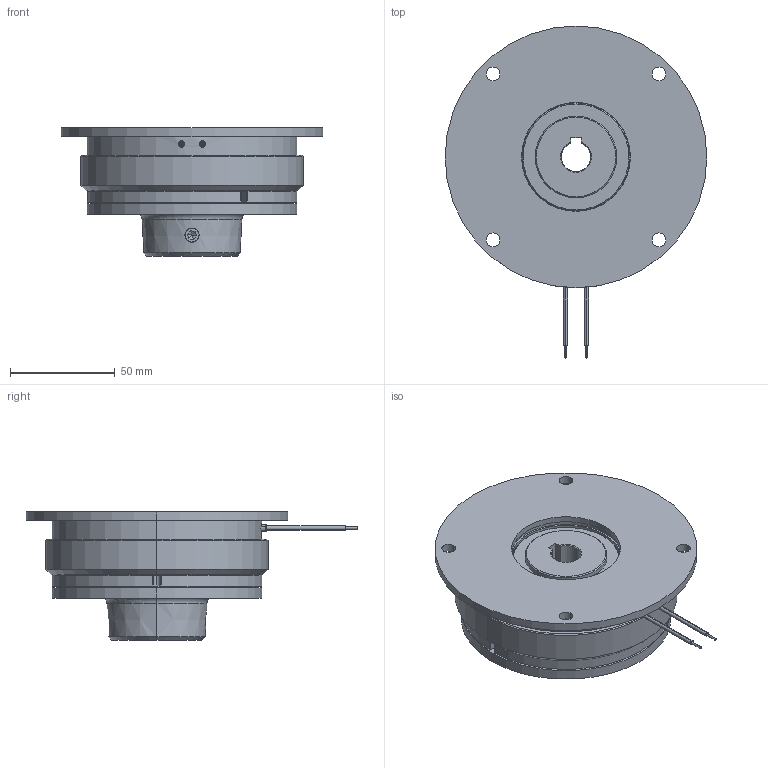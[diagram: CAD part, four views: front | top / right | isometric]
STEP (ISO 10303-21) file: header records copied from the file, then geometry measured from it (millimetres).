
FILE_DESCRIPTION (( 'STEP AP214' ), '1' );
FILE_NAME ('dr_bk_0803-130_mu.STEP', '2021-11-17T08:48:51', ( '' ), ( '' ), 'SwSTEP 2.0', 'SolidWorks 2019', '' );
FILE_SCHEMA (( 'AUTOMOTIVE_DESIGN' ));
Length unit declared in the file: millimetre
Products named in the file (11): 10068816_000; 10068817_000; 10068820_000; 10069131_000; 10068825_000; 10068819_000_Einbaul„nge 3,85; 10069116_000; 10068821_000; 10068824_000; 10069161_000_M 8 x 10; dr_bk_0803-130_mu
Assembly tree (20 placements, depth 4):
  dr_bk_0803-130_mu
    10069116_000
    10069131_000
    10068824_000
      10068825_000
      10068817_000
        10068816_000
        10068821_000
        10068820_000  x3
        10068819_000_Einbaul„nge 3,85  x3
      10068820_000  x3
      10068819_000_Einbaul„nge 3,85  x3
      10069161_000_M 8 x 10
Bounding box: 125 x 158.5 x 61.2 mm (x, y, z)
Volume: 344640.8 mm3; surface area: 108949.6 mm2
Topology: 20 solids, 20 shells, 676 faces, 1704 edges, 1083 vertices
Faces by surface type: cylinder 197, plane 181, bspline 135, cone 104, torus 47, sphere 12
Entity records: 26625 total; most frequent: CARTESIAN_POINT 12035, ORIENTED_EDGE 2872, DIRECTION 2318, EDGE_CURVE 1436, VERTEX_POINT 933, AXIS2_PLACEMENT_3D 873, EDGE_LOOP 641, LINE 572
